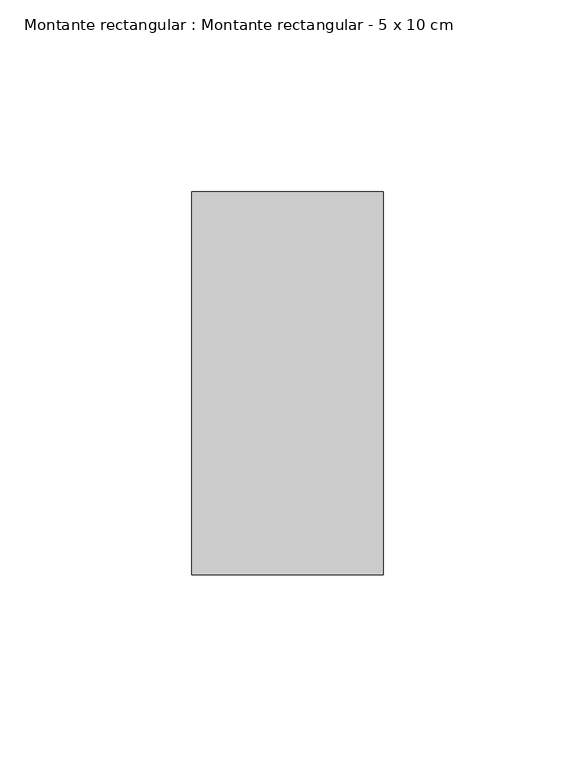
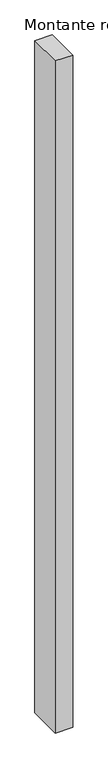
"""IFC4 building model written with IfcOpenShell, lengths in millimetres: member geometry, Montante rectangular : Montante rectangular - 5 x 10 cm."""

from ifc_helpers import new_model, si_unit, frame, origin, place, context, project, spatial, polyline, outline, extrude, source, transform, mapped, element, save


def montante_rectangular_montante_rectangular_5_x_10_cm_87390dca(model_context):
    return source(origin(), model_context, "Body", "SweptSolid", [
        extrude(outline(polyline([(0.0, 50.0), (0.0, -50.0), (-50.0, -50.0), (-50.0, 50.0), (0.0, 50.0)])), frame((0.0, 0.0, -2020.0), z_axis=(0.0, 0.0, 1.0), x_axis=(1.0, 0.0, 0.0)), (0.0, 0.0, 1.0), 2020.0),
    ])


if __name__ == "__main__":
    model = new_model("IFC4")
    model_context = context("Model", 3, world=origin())
    ifc_project = project(units=[si_unit("LENGTHUNIT", "METRE", prefix="MILLI")], contexts=[model_context])
    site = spatial("IfcSite", under=ifc_project)
    building = spatial("IfcBuilding", under=site)
    placement = place(None, origin())
    montante_rectangular_montante_rectangular_5_x_10_cm_shape = montante_rectangular_montante_rectangular_5_x_10_cm_87390dca(model_context)
    element("IfcMember", 1, ObjectType="Montante rectangular : Montante rectangular - 5 x 10 cm", at=placement, inside=building, context=model_context, shape_type="MappedRepresentation", body=[
        mapped(montante_rectangular_montante_rectangular_5_x_10_cm_shape, transform((0.0, 0.0, 0.0), x_axis=(1.0, 0.0, 0.0), y_axis=(0.0, 1.0, 0.0), z_axis=(0.0, 0.0, 1.0))),
    ])
    save(model, "model.ifc")
